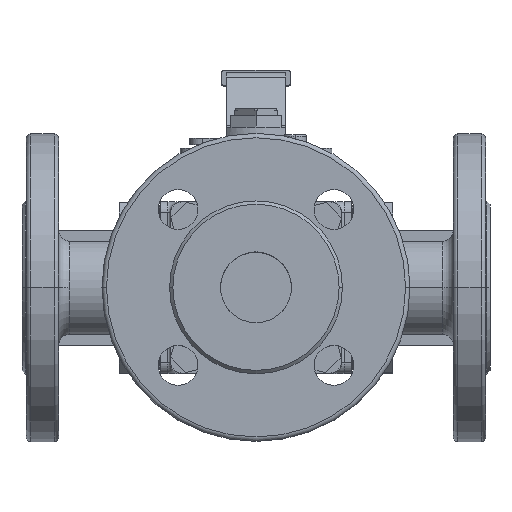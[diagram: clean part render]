
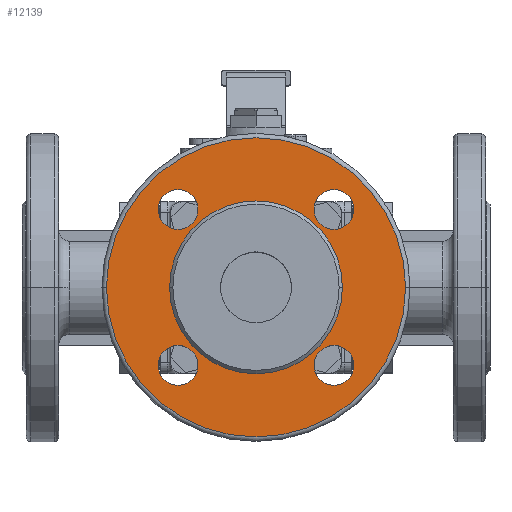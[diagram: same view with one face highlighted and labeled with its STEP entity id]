
A CAD part, top view. The second image highlights one B-rep face of the part: STEP entity #12139.
In plain terms, the highlighted planar face has unit normal (0, 0, 1) as drawn and (1, 0, 0) by its records, which use the part's own axes.
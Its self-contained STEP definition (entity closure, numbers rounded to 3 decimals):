
#96 = EDGE_LOOP ( 'NONE', ( #12405, #12406 ) ) ;
#101 = EDGE_LOOP ( 'NONE', ( #12397, #12398 ) ) ;
#103 = EDGE_LOOP ( 'NONE', ( #12407, #12408 ) ) ;
#104 = EDGE_LOOP ( 'NONE', ( #12399, #12400 ) ) ;
#105 = EDGE_LOOP ( 'NONE', ( #12403, #12404 ) ) ;
#106 = EDGE_LOOP ( 'NONE', ( #12401, #12402 ) ) ;
#2195 = CARTESIAN_POINT ( 'NONE',  ( 57.6, 0., -67.5 ) ) ;
#2198 = CARTESIAN_POINT ( 'NONE',  ( 57.6, 0., 67.5 ) ) ;
#2209 = CARTESIAN_POINT ( 'NONE',  ( 57.6, 35.179, 44.179 ) ) ;
#2210 = CARTESIAN_POINT ( 'NONE',  ( 57.6, 35.179, 26.179 ) ) ;
#2213 = CARTESIAN_POINT ( 'NONE',  ( 57.6, -35.179, 44.179 ) ) ;
#2214 = CARTESIAN_POINT ( 'NONE',  ( 57.6, -35.179, 26.179 ) ) ;
#2217 = CARTESIAN_POINT ( 'NONE',  ( 57.6, -35.179, -26.179 ) ) ;
#2218 = CARTESIAN_POINT ( 'NONE',  ( 57.6, -35.179, -44.179 ) ) ;
#2219 = CARTESIAN_POINT ( 'NONE',  ( 57.6, 0., -39. ) ) ;
#2220 = CARTESIAN_POINT ( 'NONE',  ( 57.6, 0., 39. ) ) ;
#2221 = CARTESIAN_POINT ( 'NONE',  ( 57.6, 35.179, -26.179 ) ) ;
#2222 = CARTESIAN_POINT ( 'NONE',  ( 57.6, 35.179, -44.179 ) ) ;
#3541 = CARTESIAN_POINT ( 'NONE',  ( 57.6, 0., 0. ) ) ;
#3542 = DIRECTION ( 'NONE',  ( 1., 0., 0. ) ) ;
#3543 = DIRECTION ( 'NONE',  ( 0., 0., 1. ) ) ;
#3573 = CARTESIAN_POINT ( 'NONE',  ( 57.6, 35.179, 35.179 ) ) ;
#3574 = DIRECTION ( 'NONE',  ( 1., 0., 0. ) ) ;
#3575 = DIRECTION ( 'NONE',  ( 0., 0., -1. ) ) ;
#3585 = CARTESIAN_POINT ( 'NONE',  ( 57.6, -35.179, 35.179 ) ) ;
#3586 = DIRECTION ( 'NONE',  ( 1., 0., 0. ) ) ;
#3587 = DIRECTION ( 'NONE',  ( 0., 0., -1. ) ) ;
#3597 = CARTESIAN_POINT ( 'NONE',  ( 57.6, -35.179, -35.179 ) ) ;
#3598 = DIRECTION ( 'NONE',  ( 1., 0., 0. ) ) ;
#3599 = DIRECTION ( 'NONE',  ( 0., 0., -1. ) ) ;
#3610 = CARTESIAN_POINT ( 'NONE',  ( 57.6, 35.179, -35.179 ) ) ;
#3611 = DIRECTION ( 'NONE',  ( 1., 0., 0. ) ) ;
#3612 = DIRECTION ( 'NONE',  ( 0., 0., -1. ) ) ;
#3616 = CARTESIAN_POINT ( 'NONE',  ( 57.6, 0., 0. ) ) ;
#3617 = DIRECTION ( 'NONE',  ( 1., 0., 0. ) ) ;
#3618 = DIRECTION ( 'NONE',  ( 0., 0., 1. ) ) ;
#4287 = CIRCLE ( 'NONE', #4292, 67.5 ) ;
#4292 = AXIS2_PLACEMENT_3D ( 'NONE', #3541, #3542, #3543 ) ;
#4305 = CIRCLE ( 'NONE', #4309, 9. ) ;
#4309 = AXIS2_PLACEMENT_3D ( 'NONE', #3573, #3574, #3575 ) ;
#4311 = CIRCLE ( 'NONE', #4315, 9. ) ;
#4315 = AXIS2_PLACEMENT_3D ( 'NONE', #3585, #3586, #3587 ) ;
#4317 = CIRCLE ( 'NONE', #4321, 9. ) ;
#4321 = AXIS2_PLACEMENT_3D ( 'NONE', #3597, #3598, #3599 ) ;
#4323 = CIRCLE ( 'NONE', #4327, 9. ) ;
#4325 = CIRCLE ( 'NONE', #4330, 39. ) ;
#4327 = AXIS2_PLACEMENT_3D ( 'NONE', #3610, #3611, #3612 ) ;
#4330 = AXIS2_PLACEMENT_3D ( 'NONE', #3616, #3617, #3618 ) ;
#4619 = CIRCLE ( 'NONE', #4622, 67.5 ) ;
#4621 = CIRCLE ( 'NONE', #4624, 9. ) ;
#4622 = AXIS2_PLACEMENT_3D ( 'NONE', #5192, #5193, #5194 ) ;
#4623 = CIRCLE ( 'NONE', #4626, 9. ) ;
#4624 = AXIS2_PLACEMENT_3D ( 'NONE', #5195, #5196, #5197 ) ;
#4625 = CIRCLE ( 'NONE', #4628, 9. ) ;
#4626 = AXIS2_PLACEMENT_3D ( 'NONE', #5198, #5199, #5200 ) ;
#4627 = CIRCLE ( 'NONE', #4630, 9. ) ;
#4628 = AXIS2_PLACEMENT_3D ( 'NONE', #5201, #5202, #5203 ) ;
#4629 = CIRCLE ( 'NONE', #4632, 39. ) ;
#4630 = AXIS2_PLACEMENT_3D ( 'NONE', #5204, #5205, #5206 ) ;
#4632 = AXIS2_PLACEMENT_3D ( 'NONE', #5207, #5208, #5209 ) ;
#5192 = CARTESIAN_POINT ( 'NONE',  ( 57.6, 0., 0. ) ) ;
#5193 = DIRECTION ( 'NONE',  ( 1., 0., 0. ) ) ;
#5194 = DIRECTION ( 'NONE',  ( 0., 0., 1. ) ) ;
#5195 = CARTESIAN_POINT ( 'NONE',  ( 57.6, 35.179, 35.179 ) ) ;
#5196 = DIRECTION ( 'NONE',  ( 1., 0., 0. ) ) ;
#5197 = DIRECTION ( 'NONE',  ( 0., 0., -1. ) ) ;
#5198 = CARTESIAN_POINT ( 'NONE',  ( 57.6, -35.179, 35.179 ) ) ;
#5199 = DIRECTION ( 'NONE',  ( 1., 0., 0. ) ) ;
#5200 = DIRECTION ( 'NONE',  ( 0., 0., -1. ) ) ;
#5201 = CARTESIAN_POINT ( 'NONE',  ( 57.6, -35.179, -35.179 ) ) ;
#5202 = DIRECTION ( 'NONE',  ( 1., 0., 0. ) ) ;
#5203 = DIRECTION ( 'NONE',  ( 0., 0., -1. ) ) ;
#5204 = CARTESIAN_POINT ( 'NONE',  ( 57.6, 35.179, -35.179 ) ) ;
#5205 = DIRECTION ( 'NONE',  ( 1., 0., 0. ) ) ;
#5206 = DIRECTION ( 'NONE',  ( 0., 0., -1. ) ) ;
#5207 = CARTESIAN_POINT ( 'NONE',  ( 57.6, 0., 0. ) ) ;
#5208 = DIRECTION ( 'NONE',  ( 1., 0., 0. ) ) ;
#5209 = DIRECTION ( 'NONE',  ( 0., 0., 1. ) ) ;
#7611 = AXIS2_PLACEMENT_3D ( 'NONE', #8715, #8716, #8717 ) ;
#8707 = FACE_BOUND ( 'NONE', #96, .T. ) ;
#8708 = FACE_OUTER_BOUND ( 'NONE', #101, .T. ) ;
#8709 = FACE_BOUND ( 'NONE', #103, .T. ) ;
#8710 = FACE_BOUND ( 'NONE', #104, .T. ) ;
#8711 = PLANE ( 'NONE',  #7611 ) ;
#8712 = FACE_BOUND ( 'NONE', #106, .T. ) ;
#8714 = FACE_BOUND ( 'NONE', #105, .T. ) ;
#8715 = CARTESIAN_POINT ( 'NONE',  ( 57.6, 0., 0. ) ) ;
#8716 = DIRECTION ( 'NONE',  ( -1., 0., 0. ) ) ;
#8717 = DIRECTION ( 'NONE',  ( 0., 0., 1. ) ) ;
#10452 = VERTEX_POINT ( 'NONE', #2195 ) ;
#10455 = VERTEX_POINT ( 'NONE', #2198 ) ;
#10466 = VERTEX_POINT ( 'NONE', #2209 ) ;
#10467 = VERTEX_POINT ( 'NONE', #2210 ) ;
#10470 = VERTEX_POINT ( 'NONE', #2213 ) ;
#10471 = VERTEX_POINT ( 'NONE', #2214 ) ;
#10474 = VERTEX_POINT ( 'NONE', #2217 ) ;
#10475 = VERTEX_POINT ( 'NONE', #2218 ) ;
#10476 = VERTEX_POINT ( 'NONE', #2219 ) ;
#10477 = VERTEX_POINT ( 'NONE', #2220 ) ;
#10478 = VERTEX_POINT ( 'NONE', #2221 ) ;
#10479 = VERTEX_POINT ( 'NONE', #2222 ) ;
#11229 = EDGE_CURVE ( 'NONE', #10452, #10455, #4287, .T. ) ;
#11239 = EDGE_CURVE ( 'NONE', #10466, #10467, #4305, .T. ) ;
#11243 = EDGE_CURVE ( 'NONE', #10470, #10471, #4311, .T. ) ;
#11247 = EDGE_CURVE ( 'NONE', #10474, #10475, #4317, .T. ) ;
#11251 = EDGE_CURVE ( 'NONE', #10478, #10479, #4323, .T. ) ;
#11253 = EDGE_CURVE ( 'NONE', #10476, #10477, #4325, .T. ) ;
#11413 = EDGE_CURVE ( 'NONE', #10455, #10452, #4619, .T. ) ;
#11414 = EDGE_CURVE ( 'NONE', #10467, #10466, #4621, .T. ) ;
#11415 = EDGE_CURVE ( 'NONE', #10471, #10470, #4623, .T. ) ;
#11416 = EDGE_CURVE ( 'NONE', #10475, #10474, #4625, .T. ) ;
#11417 = EDGE_CURVE ( 'NONE', #10479, #10478, #4627, .T. ) ;
#11418 = EDGE_CURVE ( 'NONE', #10477, #10476, #4629, .T. ) ;
#12139 = ADVANCED_FACE ( 'NONE', ( #8708, #8710, #8712, #8714, #8707, #8709 ), #8711, .F. ) ;
#12397 = ORIENTED_EDGE ( 'NONE', *, *, #11413, .T. ) ;
#12398 = ORIENTED_EDGE ( 'NONE', *, *, #11229, .T. ) ;
#12399 = ORIENTED_EDGE ( 'NONE', *, *, #11414, .F. ) ;
#12400 = ORIENTED_EDGE ( 'NONE', *, *, #11239, .F. ) ;
#12401 = ORIENTED_EDGE ( 'NONE', *, *, #11415, .F. ) ;
#12402 = ORIENTED_EDGE ( 'NONE', *, *, #11243, .F. ) ;
#12403 = ORIENTED_EDGE ( 'NONE', *, *, #11416, .F. ) ;
#12404 = ORIENTED_EDGE ( 'NONE', *, *, #11247, .F. ) ;
#12405 = ORIENTED_EDGE ( 'NONE', *, *, #11417, .F. ) ;
#12406 = ORIENTED_EDGE ( 'NONE', *, *, #11251, .F. ) ;
#12407 = ORIENTED_EDGE ( 'NONE', *, *, #11253, .F. ) ;
#12408 = ORIENTED_EDGE ( 'NONE', *, *, #11418, .F. ) ;
